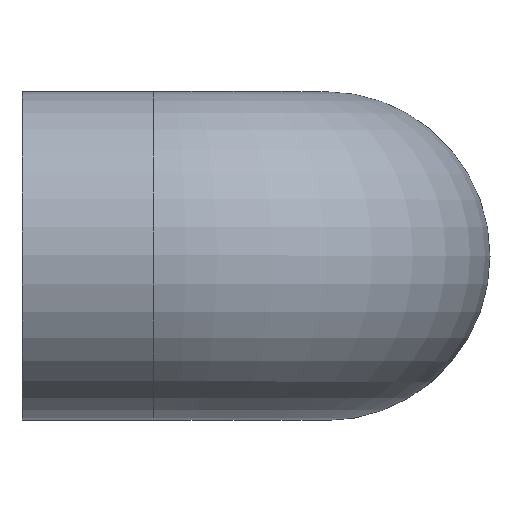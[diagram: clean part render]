
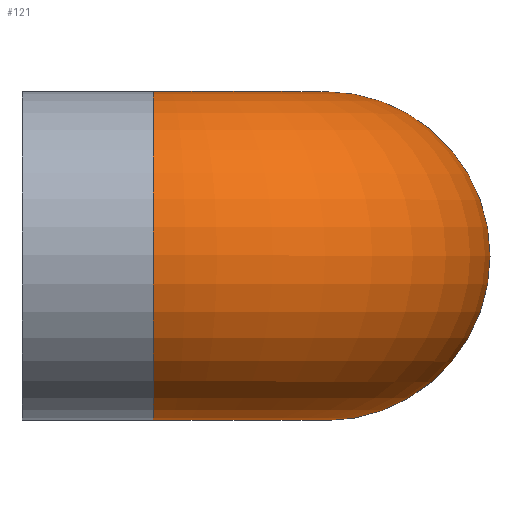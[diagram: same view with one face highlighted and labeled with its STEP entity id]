
A CAD part, top view. The second image highlights one B-rep face of the part: STEP entity #121.
In plain terms, the highlighted toroidal (fillet/blend) face has major radius 55 mm and minor radius 52.5 mm.
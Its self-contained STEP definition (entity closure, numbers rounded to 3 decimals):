
#29=FACE_BOUND('',#56,.T.);
#39=FACE_OUTER_BOUND('',#55,.T.);
#55=EDGE_LOOP('',(#105));
#56=EDGE_LOOP('',(#106));
#70=CIRCLE('',#140,52.5);
#71=CIRCLE('',#142,52.5);
#80=VERTEX_POINT('',#210);
#81=VERTEX_POINT('',#213);
#90=EDGE_CURVE('',#80,#80,#70,.T.);
#91=EDGE_CURVE('',#81,#81,#71,.T.);
#105=ORIENTED_EDGE('',*,*,#90,.F.);
#106=ORIENTED_EDGE('',*,*,#91,.T.);
#114=TOROIDAL_SURFACE('',#141,55.,52.5);
#121=ADVANCED_FACE('',(#39,#29),#114,.T.);
#140=AXIS2_PLACEMENT_3D('',#211,#175,#176);
#141=AXIS2_PLACEMENT_3D('',#212,#177,#178);
#142=AXIS2_PLACEMENT_3D('',#214,#179,#180);
#175=DIRECTION('center_axis',(-1.,0.,0.));
#176=DIRECTION('ref_axis',(0.,0.,-1.));
#177=DIRECTION('center_axis',(0.,-1.,0.));
#178=DIRECTION('ref_axis',(0.,0.,-1.));
#179=DIRECTION('center_axis',(0.,0.,1.));
#180=DIRECTION('ref_axis',(-1.,0.,0.));
#210=CARTESIAN_POINT('',(-55.,0.,149.5));
#211=CARTESIAN_POINT('Origin',(-55.,0.,97.));
#212=CARTESIAN_POINT('Origin',(-55.,0.,42.));
#213=CARTESIAN_POINT('',(52.5,0.,42.));
#214=CARTESIAN_POINT('Origin',(0.,0.,42.));
